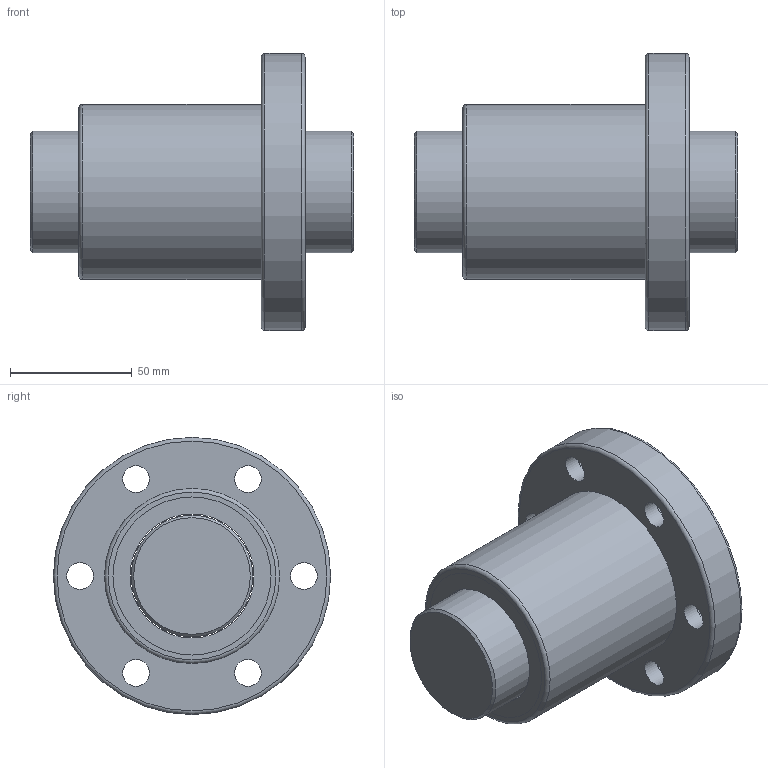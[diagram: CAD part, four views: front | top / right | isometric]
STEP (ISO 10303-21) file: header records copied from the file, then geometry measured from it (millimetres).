
FILE_DESCRIPTION(/* description */ (''),/* implementation_level */ '2;1');
FILE_NAME(/* name */ 'SFI5010',/* time_stamp */ '2007-10-26T11:45:20+08:00',/* author */ (''),/* organization */ (''),/* preprocessor_version */ 'ST-DEVELOPER v9',/* originating_system */ 'EDS PLM SOLUTIONS - UNIGRAPHICS NX 1.0',/* authorisation */ '');
FILE_SCHEMA (('CONFIG_CONTROL_DESIGN'));
Length unit declared in the file: millimetre
Products named in the file (1): FANNDA0400fe
Bounding box: 133 x 114 x 114 mm (x, y, z)
Volume: 539778.7 mm3; surface area: 94238.3 mm2
Topology: 4 solids, 4 shells, 44 faces, 82 edges, 55 vertices
Faces by surface type: cylinder 22, plane 17, torus 3, cone 2
Full cylindrical faces by diameter (mm): 11 x6, 17.5 x6, 50 x1, 51 x3, 65 x4, 72 x1, 114 x1
Entity records: 1050 total; most frequent: DIRECTION 188, CARTESIAN_POINT 143, EDGE_LOOP 98, ORIENTED_EDGE 98, AXIS2_PLACEMENT_3D 94, FACE_BOUND 79, VERTEX_POINT 49, EDGE_CURVE 49
